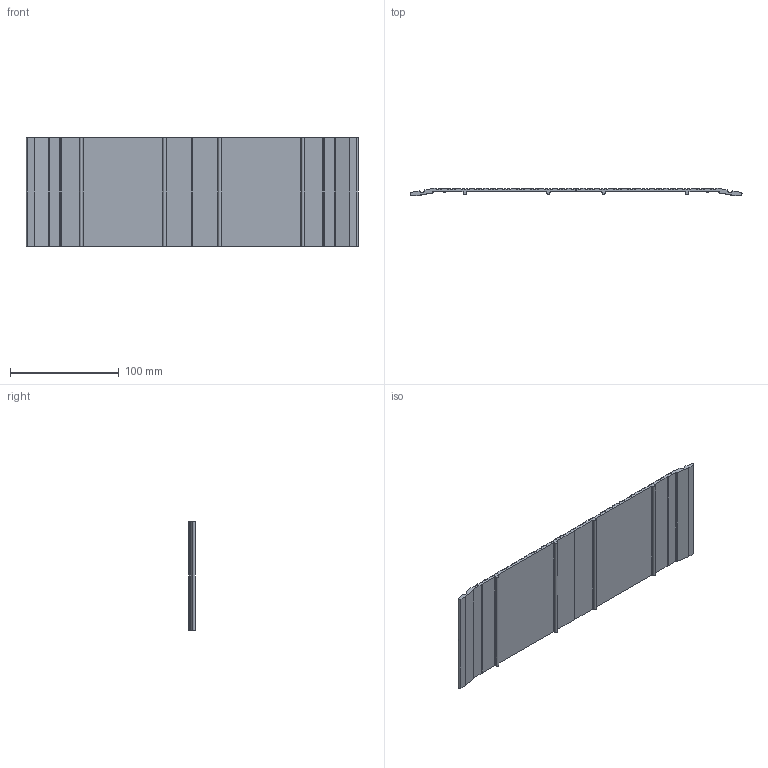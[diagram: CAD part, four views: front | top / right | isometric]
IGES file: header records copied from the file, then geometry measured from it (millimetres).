
Global section: file name: No Iges File Name specified; native system: Autodesk Inventor 2012; preprocessor: AutoDesk Inventor Iges Exporter R2012; author: anna.b; date: 20130731.145755; units: millimetre
Bounding box: 305.03 x 6.35 x 100 mm (x, y, z)
Volume: 89264.3 mm3; surface area: 70151.1 mm2
Topology: 2 solids, 2 shells, 310 faces, 918 edges, 612 vertices
Faces by surface type: cylinder 140, plane 96, revolution 74
